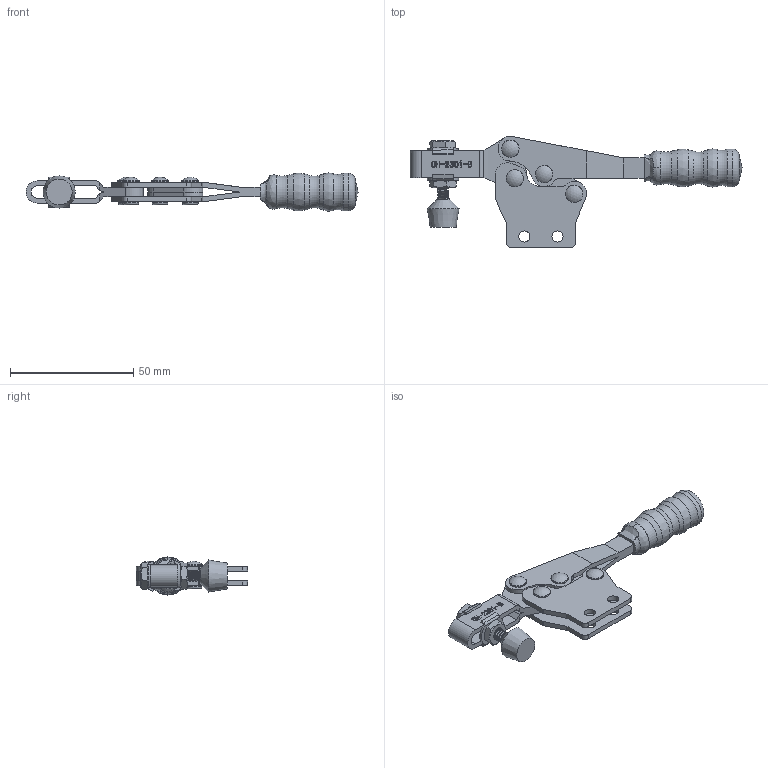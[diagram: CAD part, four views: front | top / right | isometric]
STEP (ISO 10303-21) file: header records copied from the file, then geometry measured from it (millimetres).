
FILE_DESCRIPTION(/* description */ ('STEP AP203'),/* implementation_level */ '2;1');
FILE_NAME(/* name */ 'E:\STRONA\Horizontal toggle clamp\CH-2301-B\CH-2301-B_ZAMKNIETY.stp',/* time_stamp */ '2019-01-15T15:48:09+01:00',/* author */ ('Admin'),/* organization */ ('Î¢ÈíÖÐ¹ú'),/* preprocessor_version */ 'ST-DEVELOPER v17.2',/* originating_system */ 'Autodesk Inventor 2019',/* authorisation */ '');
FILE_SCHEMA (('AUTOMOTIVE_DESIGN { 1 0 10303 214 3 1 1 }'));
Length unit declared in the file: millimetre
Products named in the file (10): CH-2301-B_ZAMKNIETY; CH-2301-B-02___; FW100____1; CH-2301-B-01___; CH-2300-06___; CH-FC-10138____1; CH-2300-05____1; CH-2300-03____1; CH-2300-04____1; 10138-02____1
Assembly tree (14 placements, depth 2):
  CH-2301-B_ZAMKNIETY
    CH-2301-B-02___
    CH-2300-05____1  x4
    FW100____1  x2
    CH-2301-B-01___
    CH-2300-06___
    CH-FC-10138____1
    CH-2300-03____1
    10138-02____1  x2
    CH-2300-04____1
Bounding box: 134.53 x 45.09 x 15.47 mm (x, y, z)
Volume: 17511.3 mm3; surface area: 17508.2 mm2
Topology: 16 solids, 17 shells, 631 faces, 1773 edges, 1208 vertices
Faces by surface type: plane 269, bspline 201, cylinder 116, torus 24, cone 17, sphere 4
Full cylindrical faces by diameter (mm): 1.6 x1, 2.4 x1, 2.9 x4, 3.8 x4, 3.9 x4, 3.98 x4, 4 x10, 4.5 x4, 4.8 x19, 4.9 x2, 6.4 x4, 7 x4, 9.526 x1, 15.323 x1
Entity records: 35601 total; most frequent: CARTESIAN_POINT 21949, ORIENTED_EDGE 3138, DIRECTION 2107, EDGE_CURVE 1569, VERTEX_POINT 1065, LINE 849, VECTOR 849, AXIS2_PLACEMENT_3D 629
